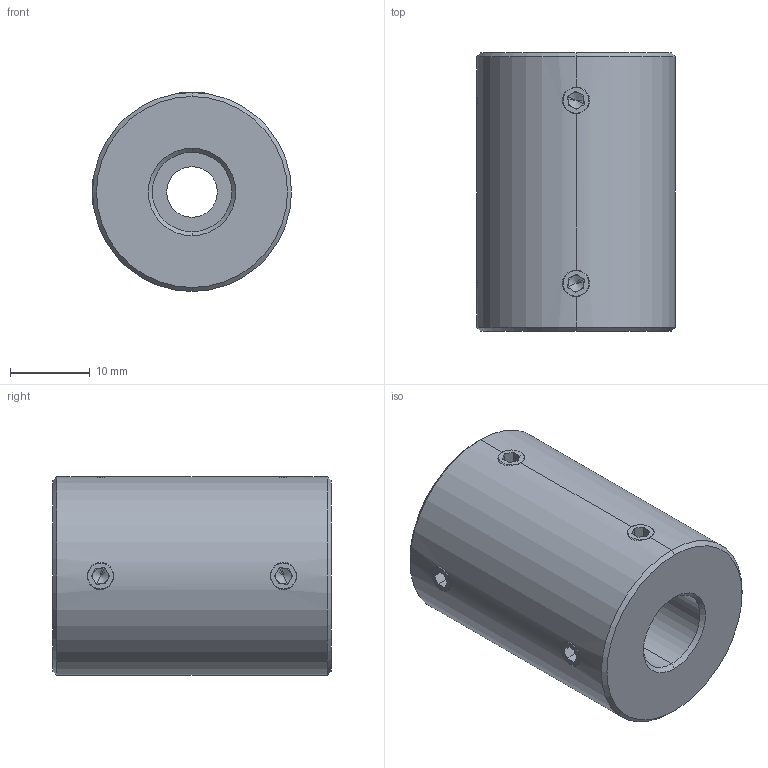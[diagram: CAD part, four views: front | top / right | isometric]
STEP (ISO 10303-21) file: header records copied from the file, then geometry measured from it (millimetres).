
FILE_DESCRIPTION (( 'STEP AP214' ), '1' );
FILE_NAME ('LL-D-D25L35-6.35-10½¨Ä£.STEP', '2022-07-23T00:39:15', ( '' ), ( '' ), 'SwSTEP 2.0', 'SolidWorks 2022', '' );
FILE_SCHEMA (( 'AUTOMOTIVE_DESIGN' ));
Length unit declared in the file: millimetre
Products named in the file (1): LL-D-D25L35-6.35-10膘耀
Bounding box: 25 x 35 x 25 mm (x, y, z)
Volume: 15046.5 mm3; surface area: 4762.3 mm2
Topology: 1 solids, 1 shells, 113 faces, 286 edges, 176 vertices
Faces by surface type: plane 59, cone 32, cylinder 22
Entity records: 3724 total; most frequent: CARTESIAN_POINT 1014, DIRECTION 558, ORIENTED_EDGE 556, EDGE_CURVE 278, AXIS2_PLACEMENT_3D 206, VERTEX_POINT 176, LINE 146, VECTOR 146
